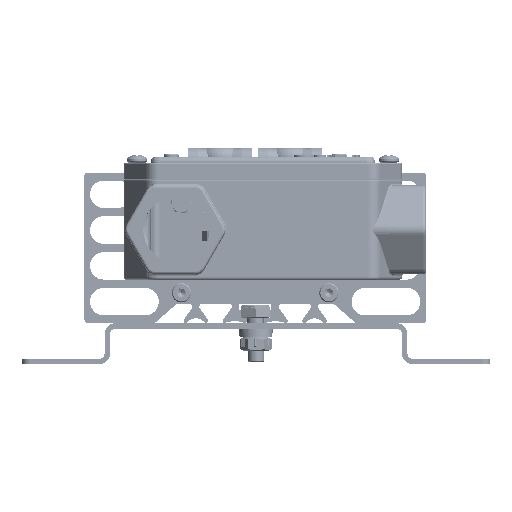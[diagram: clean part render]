
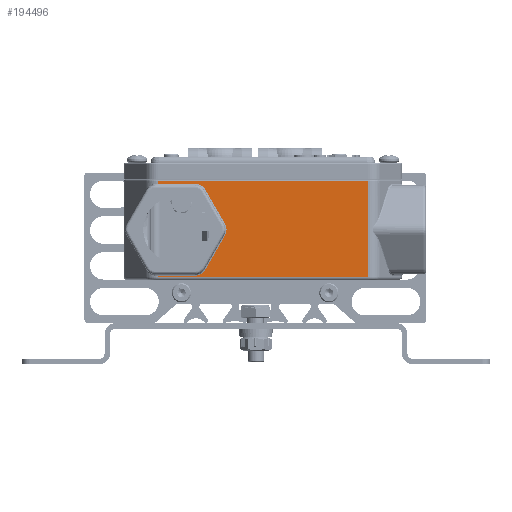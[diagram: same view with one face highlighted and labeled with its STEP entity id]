
A CAD part, front view. The second image highlights one B-rep face of the part: STEP entity #194496.
In plain terms, the highlighted planar face has unit normal (0, -1, 0).
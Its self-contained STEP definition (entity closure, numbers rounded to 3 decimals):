
#193104=CARTESIAN_POINT('',(-13.389,-57.535,-21.079));
#193105=VERTEX_POINT('',#193104);
#193138=CARTESIAN_POINT('',(-0.129,-57.535,-21.079));
#193139=VERTEX_POINT('',#193138);
#193147=CARTESIAN_POINT('',(-0.129,-57.535,-21.079));
#193148=DIRECTION('',(-1.0,0.0,0.0));
#193149=VECTOR('',#193148,13.261);
#193150=LINE('',#193147,#193149);
#193151=EDGE_CURVE('',#193139,#193105,#193150,.T.);
#193170=CARTESIAN_POINT('',(3.769,-57.535,-23.329));
#193171=VERTEX_POINT('',#193170);
#193179=CARTESIAN_POINT('',(-0.129,-57.535,-25.579));
#193180=DIRECTION('',(0.,-1.0,0.));
#193181=DIRECTION('',(0.5,0.,0.866));
#193182=AXIS2_PLACEMENT_3D('',#193179,#193180,#193181);
#193183=CIRCLE('',#193182,4.5);
#193184=EDGE_CURVE('',#193171,#193139,#193183,.T.);
#193204=CARTESIAN_POINT('',(10.841,-57.535,-35.579));
#193205=VERTEX_POINT('',#193204);
#193213=CARTESIAN_POINT('',(10.841,-57.535,-35.579));
#193214=DIRECTION('',(-0.5,0.,0.866));
#193215=VECTOR('',#193214,14.145);
#193216=LINE('',#193213,#193215);
#193217=EDGE_CURVE('',#193205,#193171,#193216,.T.);
#193236=CARTESIAN_POINT('',(10.841,-57.535,-40.079));
#193237=VERTEX_POINT('',#193236);
#193245=CARTESIAN_POINT('',(6.944,-57.535,-37.829));
#193246=DIRECTION('',(0.0,-1.0,0.0));
#193247=DIRECTION('',(1.0,0.0,0.0));
#193248=AXIS2_PLACEMENT_3D('',#193245,#193246,#193247);
#193249=CIRCLE('',#193248,4.5);
#193250=EDGE_CURVE('',#193237,#193205,#193249,.T.);
#193270=CARTESIAN_POINT('',(3.769,-57.535,-52.329));
#193271=VERTEX_POINT('',#193270);
#193279=CARTESIAN_POINT('',(3.769,-57.535,-52.329));
#193280=DIRECTION('',(0.5,0.,0.866));
#193281=VECTOR('',#193280,14.145);
#193282=LINE('',#193279,#193281);
#193283=EDGE_CURVE('',#193271,#193237,#193282,.T.);
#193302=CARTESIAN_POINT('',(-0.129,-57.535,-54.579));
#193303=VERTEX_POINT('',#193302);
#193311=CARTESIAN_POINT('',(-0.129,-57.535,-50.079));
#193312=DIRECTION('',(0.,-1.0,0.));
#193313=DIRECTION('',(0.5,0.,-0.866));
#193314=AXIS2_PLACEMENT_3D('',#193311,#193312,#193313);
#193315=CIRCLE('',#193314,4.5);
#193316=EDGE_CURVE('',#193303,#193271,#193315,.T.);
#193336=CARTESIAN_POINT('',(-13.389,-57.535,-54.579));
#193337=VERTEX_POINT('',#193336);
#193345=CARTESIAN_POINT('',(-13.389,-57.535,-54.579));
#193346=DIRECTION('',(1.0,0.0,0.0));
#193347=VECTOR('',#193346,13.261);
#193348=LINE('',#193345,#193347);
#193349=EDGE_CURVE('',#193337,#193303,#193348,.T.);
#193892=CARTESIAN_POINT('',(-13.389,-57.535,-55.079));
#193893=VERTEX_POINT('',#193892);
#193901=CARTESIAN_POINT('',(-13.389,-57.535,-55.079));
#193902=DIRECTION('',(0.0,0.0,1.0));
#193903=VECTOR('',#193902,0.5);
#193904=LINE('',#193901,#193903);
#193905=EDGE_CURVE('',#193893,#193337,#193904,.T.);
#194451=CARTESIAN_POINT('',(75.154,-57.535,-56.079));
#194452=DIRECTION('',(0.0,-1.0,0.0));
#194453=DIRECTION('',(0.0,0.0,-1.0));
#194454=AXIS2_PLACEMENT_3D('',#194451,#194452,#194453);
#194455=PLANE('',#194454);
#194456=ORIENTED_EDGE('',*,*,#193349,.F.);
#194457=ORIENTED_EDGE('',*,*,#193905,.F.);
#194458=CARTESIAN_POINT('',(62.697,-57.535,-55.079));
#194459=VERTEX_POINT('',#194458);
#194460=CARTESIAN_POINT('',(62.697,-57.535,-55.079));
#194461=DIRECTION('',(-1.0,0.0,0.0));
#194462=VECTOR('',#194461,76.086);
#194463=LINE('',#194460,#194462);
#194464=EDGE_CURVE('',#194459,#193893,#194463,.T.);
#194465=ORIENTED_EDGE('',*,*,#194464,.F.);
#194466=CARTESIAN_POINT('',(62.697,-57.535,-20.079));
#194467=VERTEX_POINT('',#194466);
#194468=CARTESIAN_POINT('',(62.697,-57.535,-20.079));
#194469=DIRECTION('',(0.0,0.0,-1.0));
#194470=VECTOR('',#194469,35.0);
#194471=LINE('',#194468,#194470);
#194472=EDGE_CURVE('',#194467,#194459,#194471,.T.);
#194473=ORIENTED_EDGE('',*,*,#194472,.F.);
#194474=CARTESIAN_POINT('',(-13.389,-57.535,-20.079));
#194475=VERTEX_POINT('',#194474);
#194476=CARTESIAN_POINT('',(-13.389,-57.535,-20.079));
#194477=DIRECTION('',(1.0,0.0,0.0));
#194478=VECTOR('',#194477,76.086);
#194479=LINE('',#194476,#194478);
#194480=EDGE_CURVE('',#194475,#194467,#194479,.T.);
#194481=ORIENTED_EDGE('',*,*,#194480,.F.);
#194482=CARTESIAN_POINT('',(-13.389,-57.535,-21.079));
#194483=DIRECTION('',(0.0,0.0,1.0));
#194484=VECTOR('',#194483,1.);
#194485=LINE('',#194482,#194484);
#194486=EDGE_CURVE('',#193105,#194475,#194485,.T.);
#194487=ORIENTED_EDGE('',*,*,#194486,.F.);
#194488=ORIENTED_EDGE('',*,*,#193151,.F.);
#194489=ORIENTED_EDGE('',*,*,#193184,.F.);
#194490=ORIENTED_EDGE('',*,*,#193217,.F.);
#194491=ORIENTED_EDGE('',*,*,#193250,.F.);
#194492=ORIENTED_EDGE('',*,*,#193283,.F.);
#194493=ORIENTED_EDGE('',*,*,#193316,.F.);
#194494=EDGE_LOOP('',(#194456,#194457,#194465,#194473,#194481,#194487,#194488,#194489,#194490,#194491,#194492,#194493));
#194495=FACE_OUTER_BOUND('',#194494,.T.);
#194496=ADVANCED_FACE('',(#194495),#194455,.T.);
